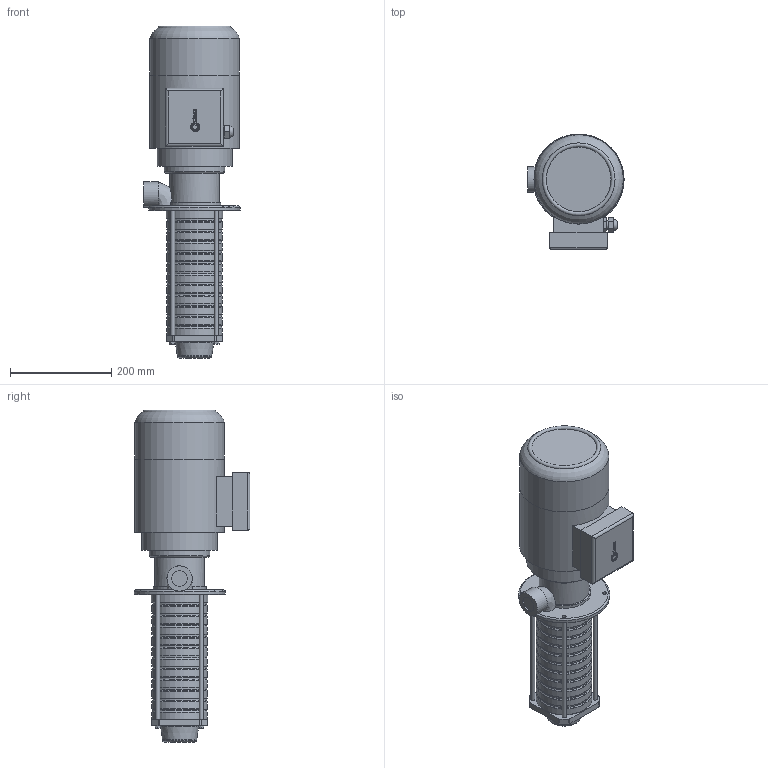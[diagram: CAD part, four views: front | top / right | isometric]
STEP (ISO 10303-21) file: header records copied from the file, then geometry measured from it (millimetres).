
FILE_DESCRIPTION(/* description */ ('Unknown'),/* implementation_level */ '2;1');
FILE_NAME(/* name */ 'hdb10',/* time_stamp */ '2025-06-17T14:59:31+03:00',/* author */ ('Unknown'),/* organization */ ('Unknown'),/* preprocessor_version */ 'ST-DEVELOPER v16.7',/* originating_system */ 'DEX',/* authorisation */ $);
FILE_SCHEMA (('AUTOMOTIVE_DESIGN {1 0 10303 214 3 1 1}'));
Length unit declared in the file: millimetre
Products named in the file (1): hdb10
Bounding box: 190 x 229 x 656.01 mm (x, y, z)
Volume: 10671152.2 mm3; surface area: 438223 mm2
Topology: 1 solids, 1 shells, 280 faces, 665 edges, 427 vertices
Faces by surface type: plane 107, bspline 66, cylinder 62, torus 30, cone 15
Full cylindrical faces by diameter (mm): 7.5 x4, 8 x4, 17 x1, 21.5 x1, 31 x1, 50 x1, 98.181 x1, 106.9 x11, 110 x11, 112 x1, 120 x1, 148.64 x1, 176.385 x1, 176.392 x1, 180 x1
Entity records: 10176 total; most frequent: CARTESIAN_POINT 4398, ORIENTED_EDGE 1134, DIRECTION 1015, EDGE_CURVE 567, EDGE_LOOP 422, FACE_BOUND 422, VERTEX_POINT 415, AXIS2_PLACEMENT_3D 373
